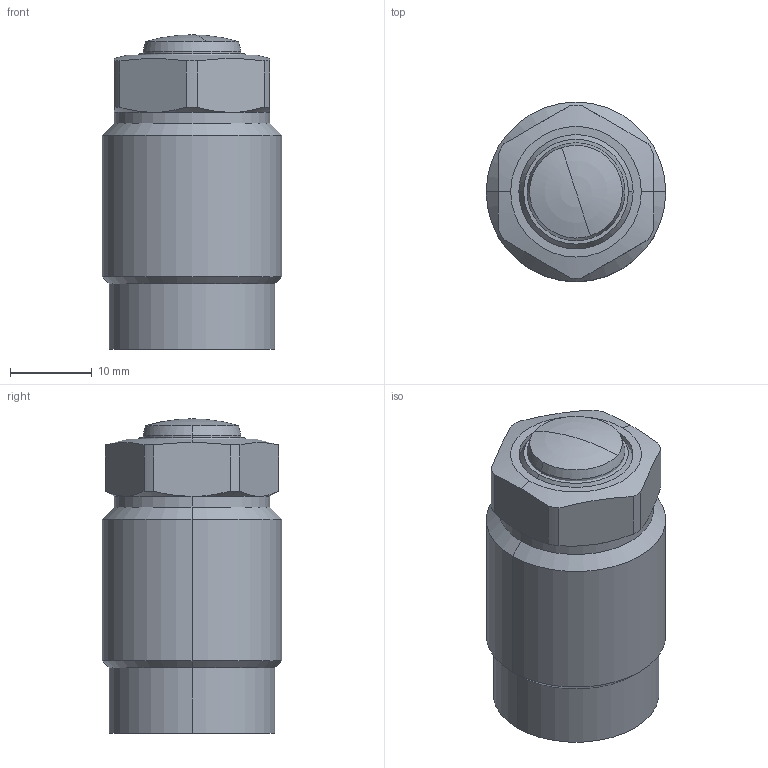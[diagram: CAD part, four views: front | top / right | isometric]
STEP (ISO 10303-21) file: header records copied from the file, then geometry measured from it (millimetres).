
FILE_DESCRIPTION((' '),'2;1');
FILE_NAME( 'TGP22-RM.x_t.stp', '2025-02-10T16:03:52', (' '), ('--- Datakit www.datakit.com---'), ' Datakit CrossCadWare V2024.1 Dec 21 2023', 'Mastercam 2025', ' ');
FILE_SCHEMA(('AUTOMOTIVE_DESIGN { 1 0 10303 214 1 1 1 1 }'));
Length unit declared in the file: millimetre
Products named in the file (1): TGP22-RM
Bounding box: 22 x 22 x 38.5 mm (x, y, z)
Volume: 13670 mm3; surface area: 3979.9 mm2
Topology: 2 solids, 2 shells, 65 faces, 151 edges, 93 vertices
Faces by surface type: cylinder 26, cone 18, plane 15, torus 6
Entity records: 1928 total; most frequent: CARTESIAN_POINT 410, DIRECTION 340, ORIENTED_EDGE 294, EDGE_CURVE 147, AXIS2_PLACEMENT_3D 147, VERTEX_POINT 93, CIRCLE 81, EDGE_LOOP 72
